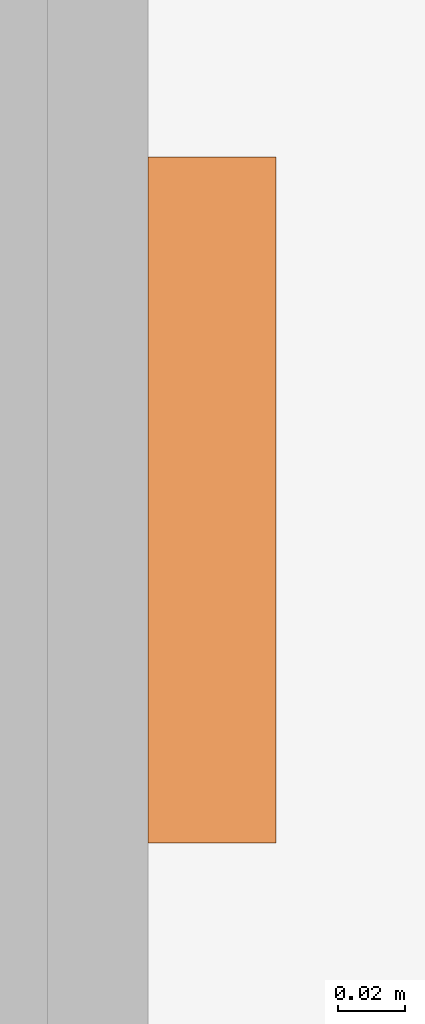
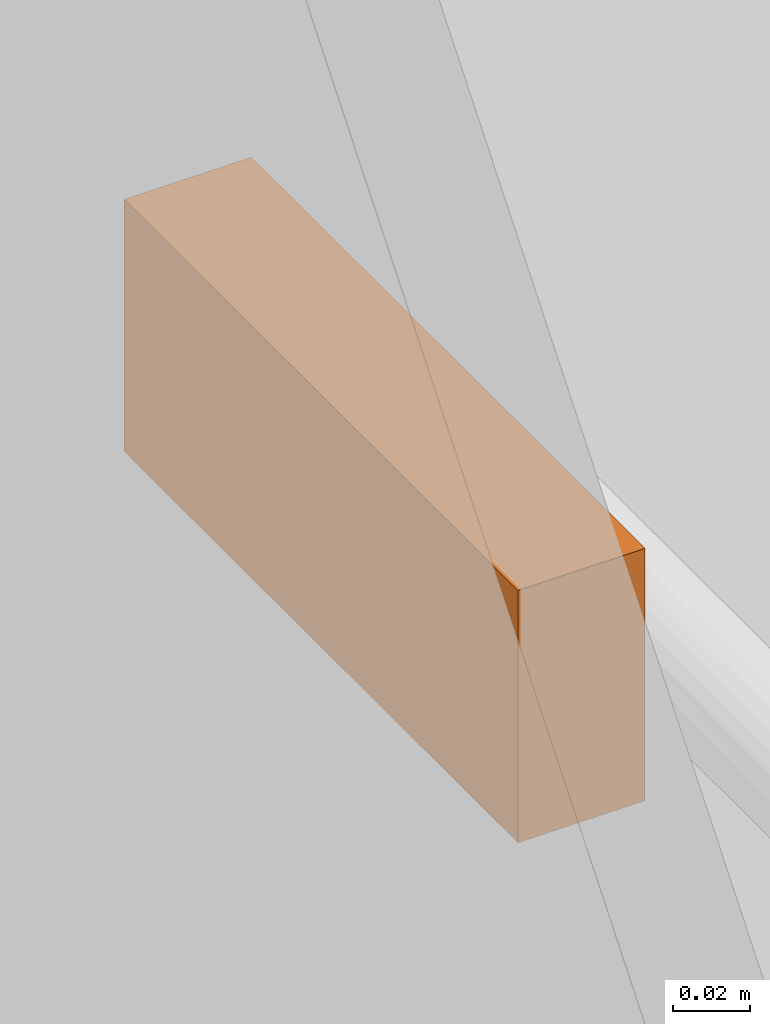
# One storey, part 74 of 74: 1 proxy.
"""IFC2X3 building model written with IfcOpenShell, lengths in millimetres."""

from ifc_helpers import new_model, entity, si_unit, converted_unit, derived_unit, direction, frame, frame_2d, origin, place, context, subcontext, project, spatial, rectangle, extrude, source, transform, mapped, material, type_object, type_shapes, element, save


model = new_model("IFC2X3")

# Units and contexts
model_context = context("Model", 3, precision=0.01, world=origin(), true_north=direction((6.123031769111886e-17, 1.0)))
body_context = subcontext(model_context, "Body", "Model", "MODEL_VIEW")
ifc_project = project(units=[si_unit("LENGTHUNIT", "METRE", prefix="MILLI"), si_unit("AREAUNIT", "SQUARE_METRE"), si_unit("VOLUMEUNIT", "CUBIC_METRE"), converted_unit("PLANEANGLEUNIT", "DEGREE", entity("IfcRatioMeasure", 0.017453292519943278), si_unit("PLANEANGLEUNIT", "RADIAN"), dimensions=[0, 0, 0, 0, 0, 0, 0]), si_unit("MASSUNIT", "GRAM", prefix="KILO"), derived_unit("MASSDENSITYUNIT", [(si_unit("MASSUNIT", "GRAM", prefix="KILO"), 1), (si_unit("LENGTHUNIT", "METRE"), -3)]), derived_unit("MOMENTOFINERTIAUNIT", [(si_unit("LENGTHUNIT", "METRE"), 4)]), si_unit("TIMEUNIT", "SECOND"), si_unit("FREQUENCYUNIT", "HERTZ"), si_unit("THERMODYNAMICTEMPERATUREUNIT", "DEGREE_CELSIUS"), derived_unit("THERMALTRANSMITTANCEUNIT", [(si_unit("MASSUNIT", "GRAM", prefix="KILO"), 1), (si_unit("THERMODYNAMICTEMPERATUREUNIT", "KELVIN"), -1), (si_unit("TIMEUNIT", "SECOND"), -3)]), derived_unit("VOLUMETRICFLOWRATEUNIT", [(si_unit("LENGTHUNIT", "METRE"), 3), (si_unit("TIMEUNIT", "SECOND"), -1)]), derived_unit("MASSFLOWRATEUNIT", [(si_unit("MASSUNIT", "GRAM", prefix="KILO"), 1), (si_unit("TIMEUNIT", "SECOND"), -1)]), derived_unit("ROTATIONALFREQUENCYUNIT", [(si_unit("TIMEUNIT", "SECOND"), -1)]), si_unit("ELECTRICCURRENTUNIT", "AMPERE"), si_unit("ELECTRICVOLTAGEUNIT", "VOLT"), si_unit("POWERUNIT", "WATT"), si_unit("FORCEUNIT", "NEWTON", prefix="KILO"), si_unit("ILLUMINANCEUNIT", "LUX"), si_unit("LUMINOUSFLUXUNIT", "LUMEN"), si_unit("LUMINOUSINTENSITYUNIT", "CANDELA"), derived_unit("USERDEFINED", [(si_unit("MASSUNIT", "GRAM", prefix="KILO"), -1), (si_unit("LENGTHUNIT", "METRE"), -2), (si_unit("TIMEUNIT", "SECOND"), 3), (si_unit("LUMINOUSFLUXUNIT", "LUMEN"), 1)]), derived_unit("SOUNDPOWERUNIT", [(si_unit("MASSUNIT", "GRAM", prefix="KILO"), 1), (si_unit("LENGTHUNIT", "METRE"), 2), (si_unit("TIMEUNIT", "SECOND"), -3)]), derived_unit("SOUNDPRESSUREUNIT", [(si_unit("MASSUNIT", "GRAM", prefix="KILO"), 1), (si_unit("LENGTHUNIT", "METRE"), -1), (si_unit("TIMEUNIT", "SECOND"), -2)]), derived_unit("LINEARVELOCITYUNIT", [(si_unit("LENGTHUNIT", "METRE"), 1), (si_unit("TIMEUNIT", "SECOND"), -1)]), si_unit("PRESSUREUNIT", "PASCAL"), derived_unit("USERDEFINED", [(si_unit("LENGTHUNIT", "METRE"), -2), (si_unit("MASSUNIT", "GRAM", prefix="KILO"), 1), (si_unit("TIMEUNIT", "SECOND"), -2)]), derived_unit("LINEARFORCEUNIT", [(si_unit("MASSUNIT", "GRAM", prefix="KILO"), 1), (si_unit("LENGTHUNIT", "METRE"), 1), (si_unit("TIMEUNIT", "SECOND"), -2), (si_unit("LENGTHUNIT", "METRE"), -1)]), derived_unit("PLANARFORCEUNIT", [(si_unit("MASSUNIT", "GRAM", prefix="KILO"), 1), (si_unit("LENGTHUNIT", "METRE"), 1), (si_unit("TIMEUNIT", "SECOND"), -2), (si_unit("LENGTHUNIT", "METRE"), -2)])], contexts=[model_context])

# Site, building, storey, space
site_placement = place(None, frame((-14167.972527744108, -657.2125860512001, 0.0)))
site = spatial("IfcSite", under=ifc_project, at=site_placement, Name="Default", CompositionType="ELEMENT")
building_placement = place(site_placement, origin())
building = spatial("IfcBuilding", under=site, at=building_placement, Name="Sample Building", CompositionType="ELEMENT")
storey_placement = place(building_placement, frame((0.0, 0.0, 4800.0)))
storey = spatial("IfcBuildingStorey", under=building, at=storey_placement, Name="지상 2층", CompositionType="ELEMENT", Elevation=4800.000000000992)
space_placement = place(storey_placement, origin())
space = spatial("IfcSpace", under=storey, at=space_placement, Name="188", CompositionType="ELEMENT", InteriorOrExteriorSpace="INTERNAL")

# Proxy
ifc_material = material(Name="KBIMS-복합 패널")
building_element_proxy_type = type_object("IfcBuildingElementProxyType", Name="비상용벨1:비상용벨", PredefinedType="NOTDEFINED", material=ifc_material)
shared_shape = source(origin(), body_context, "Body", "SweptSolid", [
    extrude(rectangle(XDim=204.38472874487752, YDim=38.12692769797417, at=frame_2d((0.0, -5.417888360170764e-13), x_axis=(1.0, 0.0))), frame((56270.66937734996, 6228.98364767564, 5619.91802541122), z_axis=(0.0, 0.0, 1.0), x_axis=(-1.0, 0.0, 0.0)), (0.0, 0.0, 1.0), 79.9535849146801),
])
type_shapes(building_element_proxy_type, [shared_shape])
proxy_placement = place(space_placement, frame((26888.052307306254, 80809.51297417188, -4800.0), z_axis=(0.0, 0.0, 1.0), x_axis=(0.0, -1.0, 0.0)))
element("IfcBuildingElementProxy", 1, at=proxy_placement, inside=space, type_object=building_element_proxy_type, material=ifc_material, Name="비상용벨1:비상용벨", ObjectType="비상용벨1:비상용벨", context=body_context, shape_type="MappedRepresentation", body=[
    mapped(shared_shape, transform((0.0, 0.0, 0.0), scale=1.0)),
])

save(model, "model.ifc")
